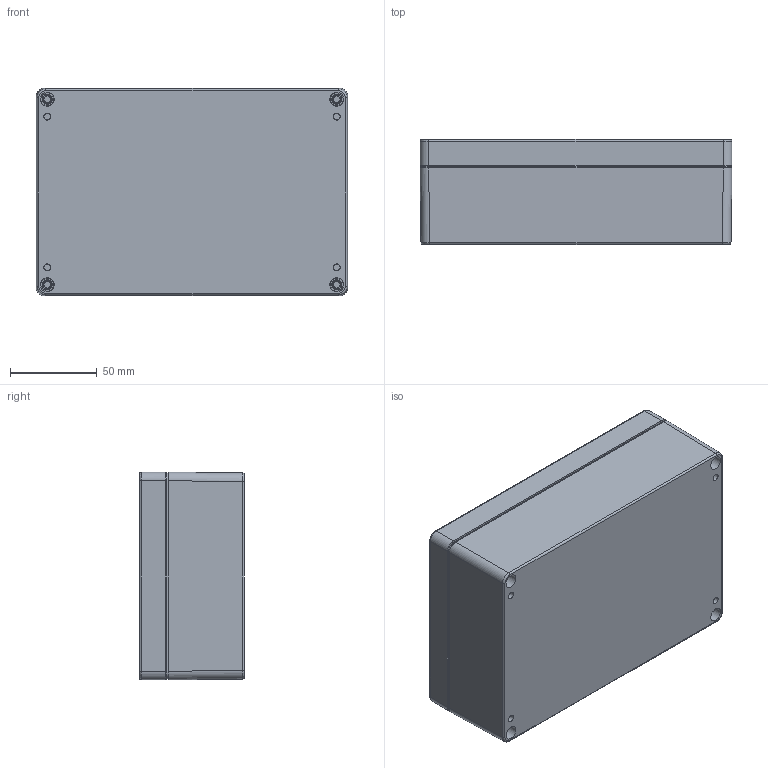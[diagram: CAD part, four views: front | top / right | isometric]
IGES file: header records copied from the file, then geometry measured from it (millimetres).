
Global section: file name: 1554H.iam; native system: Autodesk Inventor 2016; preprocessor: unknown; author: avernon; date: 20160106.073740; units: millimetre
Bounding box: 180 x 60.5 x 120 mm (x, y, z)
Volume: 249247.2 mm3; surface area: 179457.9 mm2
Topology: 15 solids, 15 shells, 1364 faces, 3576 edges, 2320 vertices
Faces by surface type: plane 382, bspline 340, revolution 279, cylinder 259, cone 88, sphere 16
Full cylindrical faces by diameter (mm): 3.43 x4, 3.81 x12, 3.88 x4, 3.912 x4, 5.334 x4, 5.537 x8, 6.35 x8
